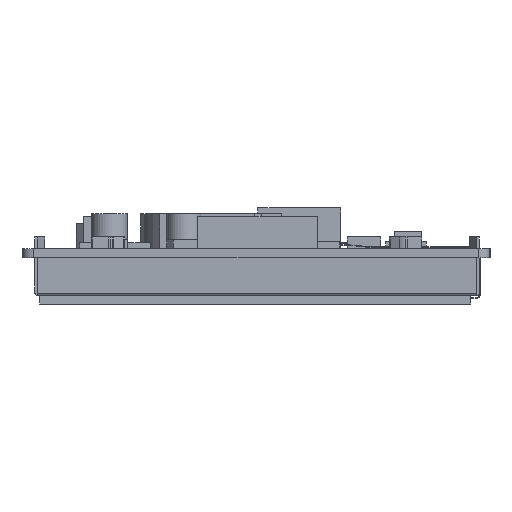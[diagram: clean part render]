
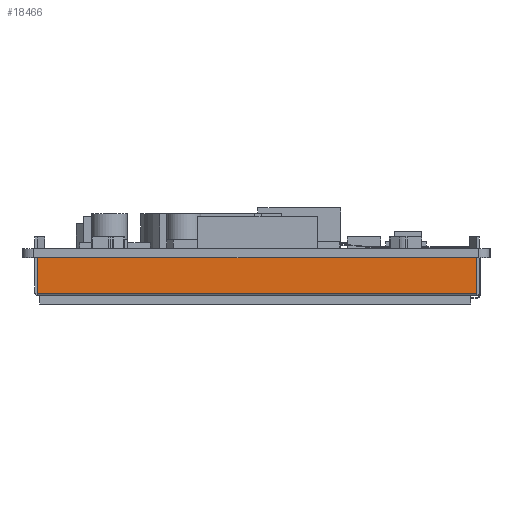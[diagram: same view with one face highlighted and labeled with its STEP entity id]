
A CAD part, left-side view. The second image highlights one B-rep face of the part: STEP entity #18466.
In plain terms, the highlighted planar face has unit normal (-1, 0, 0).
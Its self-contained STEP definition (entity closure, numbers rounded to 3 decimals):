
#18466=ADVANCED_FACE('',(#22638),#20548,.F.);
#20548=PLANE('',#51540);
#22638=FACE_OUTER_BOUND('',#24803,.T.);
#24803=EDGE_LOOP('',(#32769,#32770,#32771,#32772));
#32769=ORIENTED_EDGE('',*,*,#40620,.F.);
#32770=ORIENTED_EDGE('',*,*,#40621,.T.);
#32771=ORIENTED_EDGE('',*,*,#40622,.T.);
#32772=ORIENTED_EDGE('',*,*,#40623,.T.);
#36407=VERTEX_POINT('',#69036);
#36408=VERTEX_POINT('',#69037);
#36409=VERTEX_POINT('',#69039);
#36410=VERTEX_POINT('',#69041);
#40620=EDGE_CURVE('',#36407,#36408,#44916,.T.);
#40621=EDGE_CURVE('',#36407,#36409,#44917,.T.);
#40622=EDGE_CURVE('',#36409,#36410,#44918,.T.);
#40623=EDGE_CURVE('',#36410,#36408,#44919,.T.);
#44916=LINE('',#69035,#49125);
#44917=LINE('',#69038,#49126);
#44918=LINE('',#69040,#49127);
#44919=LINE('',#69042,#49128);
#49125=VECTOR('',#59530,1.);
#49126=VECTOR('',#59531,1.);
#49127=VECTOR('',#59532,1.);
#49128=VECTOR('',#59533,1.);
#51540=AXIS2_PLACEMENT_3D('',#69043,#59534,#59535);
#59530=DIRECTION('',(0.,0.,1.));
#59531=DIRECTION('',(0.,-1.,0.));
#59532=DIRECTION('',(0.,0.,1.));
#59533=DIRECTION('',(0.,1.,0.));
#59534=DIRECTION('',(1.,0.,0.));
#59535=DIRECTION('',(0.,1.,0.));
#69035=CARTESIAN_POINT('',(59.66,54.82,-8.1));
#69036=CARTESIAN_POINT('',(59.66,54.82,-7.7));
#69037=CARTESIAN_POINT('',(59.66,54.82,-1.6));
#69038=CARTESIAN_POINT('',(59.66,-21.2,-7.7));
#69039=CARTESIAN_POINT('',(59.66,-21.2,-7.7));
#69040=CARTESIAN_POINT('',(59.66,-21.2,-8.1));
#69041=CARTESIAN_POINT('',(59.66,-21.2,-1.6));
#69042=CARTESIAN_POINT('',(59.66,-21.2,-1.6));
#69043=CARTESIAN_POINT('',(59.66,-21.2,-8.1));
